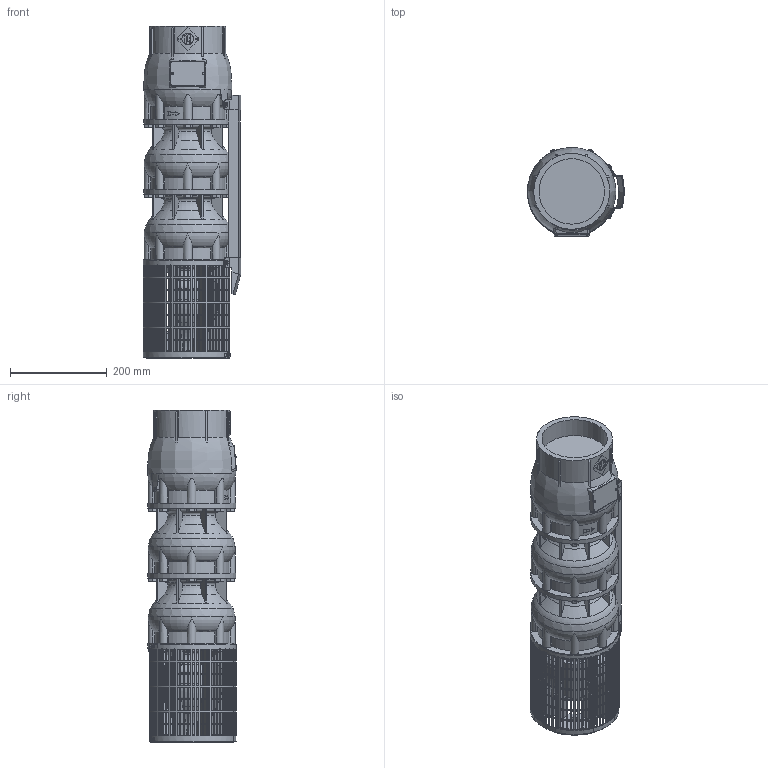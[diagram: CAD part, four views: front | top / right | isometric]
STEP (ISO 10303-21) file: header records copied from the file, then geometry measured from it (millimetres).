
FILE_DESCRIPTION(/* description */ ('Unknown'),/* implementation_level */ '2;1');
FILE_NAME(/* name */ 'VSI134-2_WR_M6-50_DLE',/* time_stamp */ '2023-09-14T13:18:48+02:00',/* author */ ('Unknown'),/* organization */ ('Unknown'),/* preprocessor_version */ 'ST-DEVELOPER v18.102',/* originating_system */ 'Solid Edge',/* authorisation */ 'Unknown');
FILE_SCHEMA (('INTEGRATED_CNC_SCHEMA','AUTOMOTIVE_DESIGN {1 0 10303 214 3 1 1}'));
Products named in the file (11): VSI134-2_WR_M6-50_DLE; VSI134_testata; VSI134_diffusore; VSI134_supporto_8×6; VSI134_filtro_A; VSI134_filtro_B; VSI134_terminale_top_copricavo_basso; VSI134_terminale_bottom_copricavo_basso; LOW 134-2; M5X8_UNI7687; VSI134_giunto_8×6
Assembly tree (20 placements, depth 2):
  VSI134-2_WR_M6-50_DLE
    VSI134_testata
    VSI134_diffusore  x2
    VSI134_supporto_8×6
    VSI134_filtro_A
    VSI134_filtro_B
    VSI134_terminale_top_copricavo_basso
    VSI134_terminale_bottom_copricavo_basso
    LOW 134-2
    M5X8_UNI7687  x10
    VSI134_giunto_8×6
Bounding box: 201.57 x 183.52 x 687 mm (x, y, z)
Volume: 10608511.9 mm3; surface area: 999828.5 mm2
Topology: 59 solids, 61 shells, 2834 faces, 8000 edges, 5329 vertices
Faces by surface type: plane 2211, cylinder 388, torus 140, cone 52, bspline 31, sphere 12
Full cylindrical faces by diameter (mm): 2.4 x2, 3 x2, 4.2 x16, 5 x10, 5.5 x8, 15 x4, 26 x1, 44 x1, 59 x1, 74 x1, 76.2 x1, 98 x1, 135.472 x1, 157 x1, 182 x3
Entity records: 83709 total; most frequent: CARTESIAN_POINT 18040, ORIENTED_EDGE 13738, DIRECTION 13162, EDGE_CURVE 6869, VERTEX_POINT 4627, AXIS2_PLACEMENT_3D 4488, LINE 4186, VECTOR 4186
